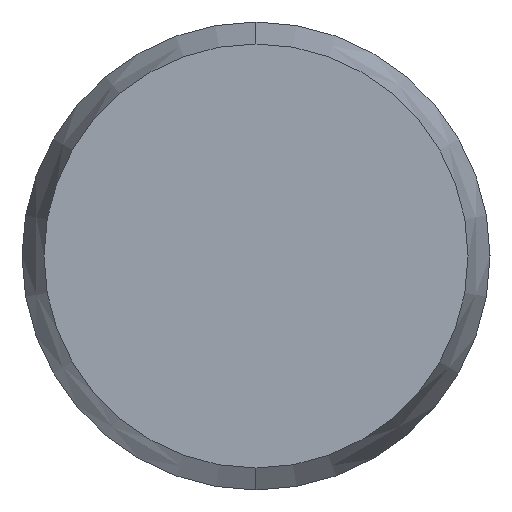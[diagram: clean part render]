
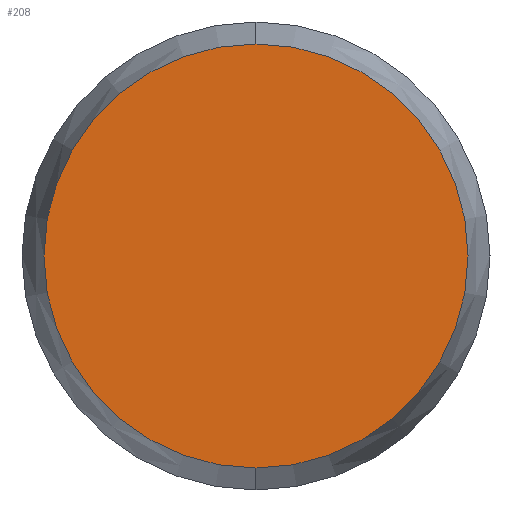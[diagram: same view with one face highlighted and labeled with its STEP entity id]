
A CAD part, left-side view. The second image highlights one B-rep face of the part: STEP entity #208.
In plain terms, the highlighted planar face has unit normal (-1, 0, 0).
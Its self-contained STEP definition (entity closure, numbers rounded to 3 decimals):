
#68 = AXIS2_PLACEMENT_3D ( 'NONE', #71, #70, #197 ) ;
#69 = PLANE ( 'NONE',  #68 ) ;
#70 = DIRECTION ( 'NONE',  ( 1., 0., 0. ) ) ;
#71 = CARTESIAN_POINT ( 'NONE',  ( -15., 0., 0. ) ) ;
#72 = FACE_OUTER_BOUND ( 'NONE', #209, .T. ) ;
#73 = DIRECTION ( 'NONE',  ( 0., 0., -1. ) ) ;
#74 = DIRECTION ( 'NONE',  ( 1., 0., 0. ) ) ;
#75 = CARTESIAN_POINT ( 'NONE',  ( -15., 0., 0. ) ) ;
#76 = AXIS2_PLACEMENT_3D ( 'NONE', #75, #74, #73 ) ;
#77 = CIRCLE ( 'NONE', #76, 1.812 ) ;
#117 = CARTESIAN_POINT ( 'NONE',  ( -15., 0., -1.812 ) ) ;
#118 = CARTESIAN_POINT ( 'NONE',  ( -15., 0., 1.812 ) ) ;
#119 = DIRECTION ( 'NONE',  ( 0., 0., -1. ) ) ;
#120 = DIRECTION ( 'NONE',  ( 1., 0., 0. ) ) ;
#121 = CARTESIAN_POINT ( 'NONE',  ( -15., 0., 0. ) ) ;
#122 = AXIS2_PLACEMENT_3D ( 'NONE', #121, #120, #119 ) ;
#123 = CIRCLE ( 'NONE', #122, 1.812 ) ;
#197 = DIRECTION ( 'NONE',  ( 0., 0., -1. ) ) ;
#205 = EDGE_CURVE ( 'NONE', #231, #230, #77, .T. ) ;
#208 = ADVANCED_FACE ( 'NONE', ( #72 ), #69, .F. ) ;
#209 = EDGE_LOOP ( 'NONE', ( #210, #211 ) ) ;
#210 = ORIENTED_EDGE ( 'NONE', *, *, #229, .F. ) ;
#211 = ORIENTED_EDGE ( 'NONE', *, *, #205, .F. ) ;
#229 = EDGE_CURVE ( 'NONE', #230, #231, #123, .T. ) ;
#230 = VERTEX_POINT ( 'NONE', #118 ) ;
#231 = VERTEX_POINT ( 'NONE', #117 ) ;
